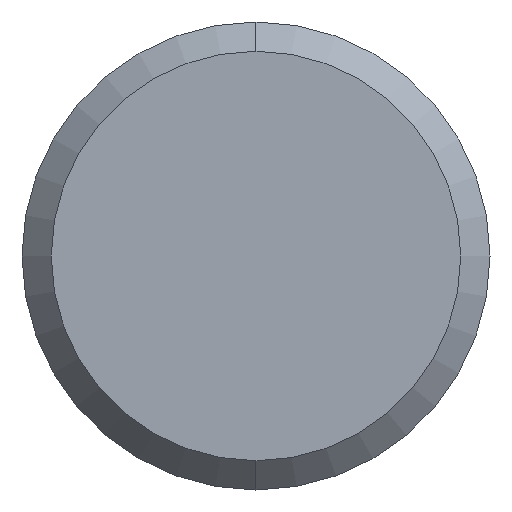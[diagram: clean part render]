
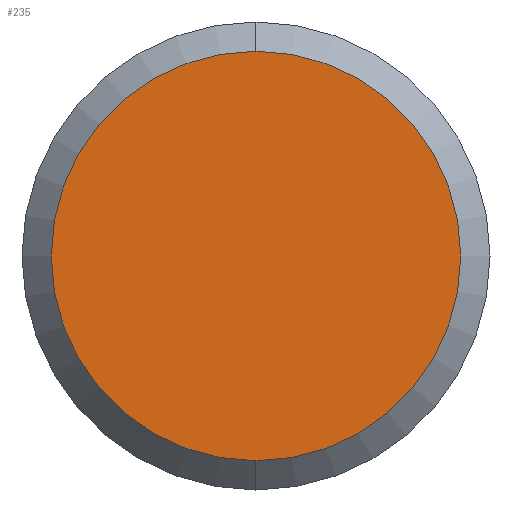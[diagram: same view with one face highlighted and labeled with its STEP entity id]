
A CAD part, left-side view. The second image highlights one B-rep face of the part: STEP entity #235.
In plain terms, the highlighted planar face has unit normal (-1, 0, 0).
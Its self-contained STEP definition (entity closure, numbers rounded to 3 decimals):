
#1 = VERTEX_POINT ( 'NONE', #319 ) ;
#15 = DIRECTION ( 'NONE',  ( -1., 0., 0. ) ) ;
#35 = CARTESIAN_POINT ( 'NONE',  ( 0., 0., -7. ) ) ;
#63 = ORIENTED_EDGE ( 'NONE', *, *, #99, .T. ) ;
#99 = EDGE_CURVE ( 'NONE', #435, #1, #119, .T. ) ;
#116 = DIRECTION ( 'NONE',  ( 0., 0., 1. ) ) ;
#119 = CIRCLE ( 'NONE', #223, 7. ) ;
#134 = PLANE ( 'NONE',  #166 ) ;
#144 = DIRECTION ( 'NONE',  ( -1., 0., 0. ) ) ;
#145 = CARTESIAN_POINT ( 'NONE',  ( 0., 0., 0. ) ) ;
#148 = FACE_OUTER_BOUND ( 'NONE', #151, .T. ) ;
#151 = EDGE_LOOP ( 'NONE', ( #201, #63 ) ) ;
#163 = DIRECTION ( 'NONE',  ( 0., 0., 1. ) ) ;
#164 = CARTESIAN_POINT ( 'NONE',  ( 0., 0., 0. ) ) ;
#165 = CIRCLE ( 'NONE', #447, 7. ) ;
#166 = AXIS2_PLACEMENT_3D ( 'NONE', #145, #250, #259 ) ;
#201 = ORIENTED_EDGE ( 'NONE', *, *, #326, .T. ) ;
#223 = AXIS2_PLACEMENT_3D ( 'NONE', #438, #15, #116 ) ;
#235 = ADVANCED_FACE ( 'NONE', ( #148 ), #134, .F. ) ;
#250 = DIRECTION ( 'NONE',  ( 1., 0., 0. ) ) ;
#259 = DIRECTION ( 'NONE',  ( 0., 0., -1. ) ) ;
#319 = CARTESIAN_POINT ( 'NONE',  ( 0., 0., 7. ) ) ;
#326 = EDGE_CURVE ( 'NONE', #1, #435, #165, .T. ) ;
#435 = VERTEX_POINT ( 'NONE', #35 ) ;
#438 = CARTESIAN_POINT ( 'NONE',  ( 0., 0., 0. ) ) ;
#447 = AXIS2_PLACEMENT_3D ( 'NONE', #164, #144, #163 ) ;
